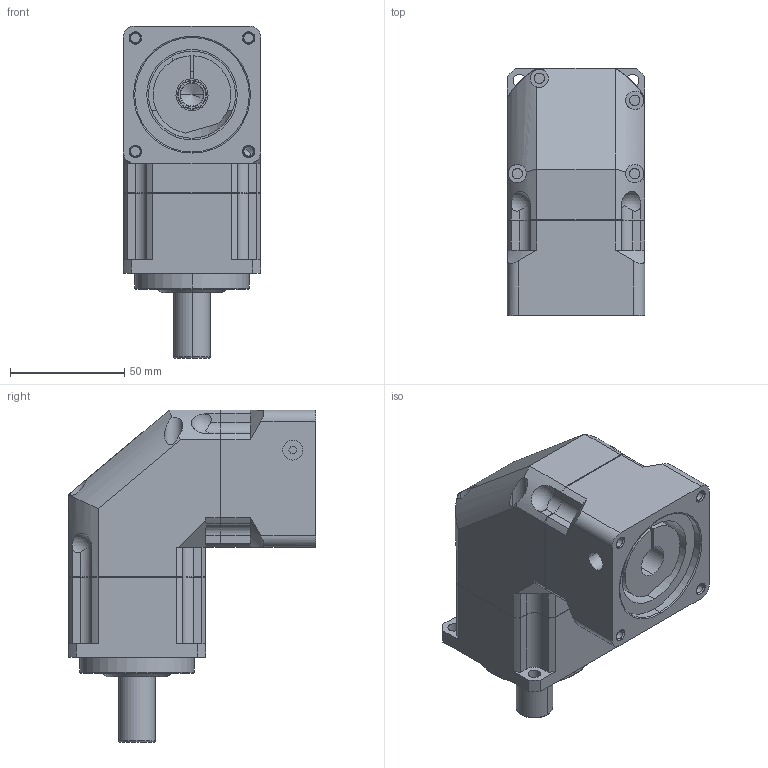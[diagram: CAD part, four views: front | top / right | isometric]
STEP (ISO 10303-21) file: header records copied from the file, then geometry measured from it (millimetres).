
FILE_DESCRIPTION((''),'2;1');
FILE_NAME('ABR0601-P4020102_ASM','2006-03-16T',('D00036'),(''),'PRO/ENGINEER BY PARAMETRIC TECHNOLOGY CORPORATION, 2001280','PRO/ENGINEER BY PARAMETRIC TECHNOLOGY CORPORATION, 2001280','');
FILE_SCHEMA(('CONFIG_CONTROL_DESIGN'));
Length unit declared in the file: millimetre
Products named in the file (4): AB0601; PD020001; P4020102; ABR0601-P4020102_ASM
Assembly tree (3 placements, depth 2):
  ABR0601-P4020102_ASM
    AB0601
    PD020001
    P4020102
Bounding box: 60 x 108 x 145 mm (x, y, z)
Volume: 354398.2 mm3; surface area: 81417.3 mm2
Topology: 4 solids, 15 shells, 427 faces, 1037 edges, 641 vertices
Faces by surface type: cylinder 165, plane 156, cone 82, torus 20, sphere 4
Entity records: 13060 total; most frequent: CARTESIAN_POINT 2760, DIRECTION 2280, ORIENTED_EDGE 1998, EDGE_CURVE 1023, AXIS2_PLACEMENT_3D 903, VERTEX_POINT 641, EDGE_LOOP 486, VECTOR 474
